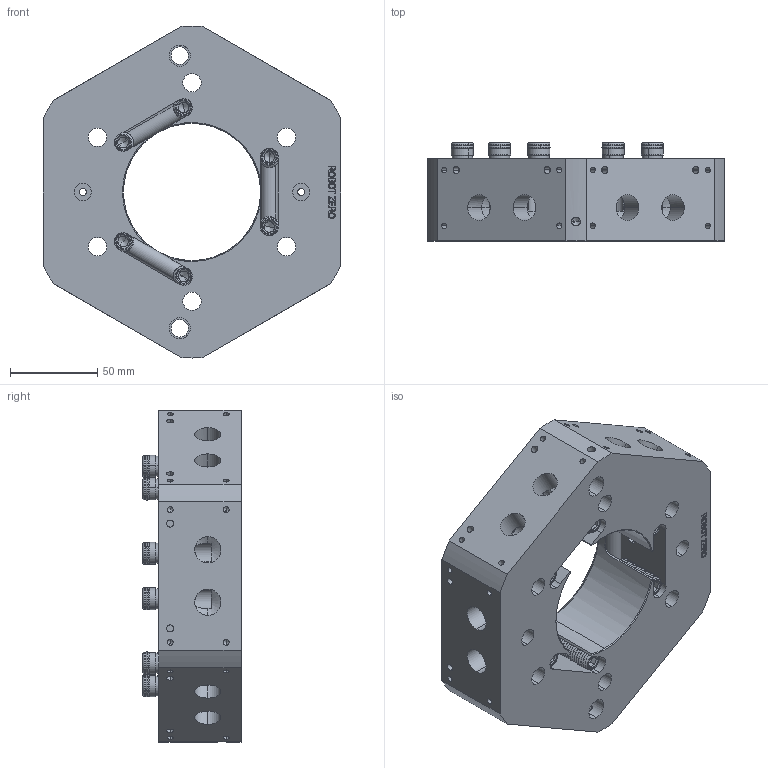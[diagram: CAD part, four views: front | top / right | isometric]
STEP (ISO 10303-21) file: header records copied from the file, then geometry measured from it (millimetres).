
FILE_DESCRIPTION(/* description */ ('Unknown'),/* implementation_level */ '2;1');
FILE_NAME(/* name */ 'ET125LP-000-N-C0000 sdp',/* time_stamp */ '2025-04-04T13:34:15+02:00',/* author */ ('Unknown'),/* organization */ ('Unknown'),/* preprocessor_version */ 'ST-DEVELOPER v19.4',/* originating_system */ 'Solid Edge',/* authorisation */ 'Unknown');
FILE_SCHEMA (('AUTOMOTIVE_DESIGN {1 0 10303 214 3 1 1}'));
Products named in the file (1): ET125LP-000-N-C0000
Bounding box: 170 x 56.12 x 190 mm (x, y, z)
Volume: 806480.8 mm3; surface area: 167639.9 mm2
Topology: 53 solids, 53 shells, 1764 faces, 4328 edges, 2696 vertices
Faces by surface type: cylinder 814, plane 395, cone 258, torus 168, bspline 109, sphere 20
Entity records: 74471 total; most frequent: CARTESIAN_POINT 33580, ORIENTED_EDGE 8492, DIRECTION 8475, EDGE_CURVE 4246, AXIS2_PLACEMENT_3D 3405, VERTEX_POINT 2692, EDGE_LOOP 2018, FACE_BOUND 2018
